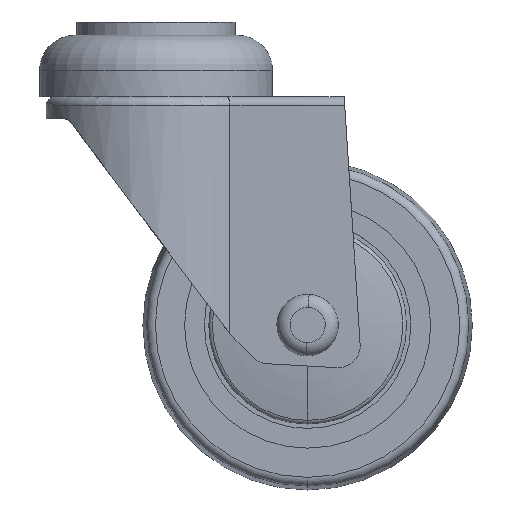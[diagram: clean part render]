
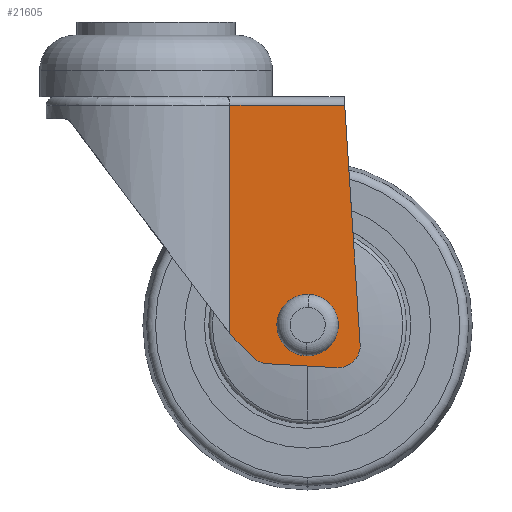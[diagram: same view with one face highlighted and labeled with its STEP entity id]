
A CAD part, top view. The second image highlights one B-rep face of the part: STEP entity #21605.
In plain terms, the highlighted planar face has unit normal (0, 0, 1) as drawn and (1, 0, 0) by its records, which use the part's own axes.
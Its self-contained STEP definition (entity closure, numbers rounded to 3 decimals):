
#265 = AXIS2_PLACEMENT_3D ( 'NONE', #2401, #10568, #662 ) ;
#558 = CARTESIAN_POINT ( 'NONE',  ( 18.5, 52., 34.5 ) ) ;
#590 = ORIENTED_EDGE ( 'NONE', *, *, #13524, .T. ) ;
#627 = CARTESIAN_POINT ( 'NONE',  ( 18.5, 61.682, 41.181 ) ) ;
#662 = DIRECTION ( 'NONE',  ( 0., -1., 0. ) ) ;
#1679 = DIRECTION ( 'NONE',  ( 1., 0., 0. ) ) ;
#2401 = CARTESIAN_POINT ( 'NONE',  ( 18.5, 62., 55. ) ) ;
#2761 = CARTESIAN_POINT ( 'NONE',  ( 18.5, 62.526, 46.849 ) ) ;
#2953 = ORIENTED_EDGE ( 'NONE', *, *, #4776, .F. ) ;
#2958 = DIRECTION ( 'NONE',  ( 0., -1., 0. ) ) ;
#3427 = DIRECTION ( 'NONE',  ( 1., 0., 0. ) ) ;
#3469 = ORIENTED_EDGE ( 'NONE', *, *, #3522, .F. ) ;
#3522 = EDGE_CURVE ( 'NONE', #10775, #12220, #23093, .T. ) ;
#3701 = VECTOR ( 'NONE', #13432, 1000. ) ;
#4061 = DIRECTION ( 'NONE',  ( 0., -1., 0. ) ) ;
#4776 = EDGE_CURVE ( 'NONE', #6894, #10775, #15579, .T. ) ;
#5156 = AXIS2_PLACEMENT_3D ( 'NONE', #558, #25373, #2958 ) ;
#5278 = CARTESIAN_POINT ( 'NONE',  ( 18.5, 77.119, 39.777 ) ) ;
#6149 = AXIS2_PLACEMENT_3D ( 'NONE', #17456, #3427, #11199 ) ;
#6412 = FACE_BOUND ( 'NONE', #19048, .T. ) ;
#6519 = DIRECTION ( 'NONE',  ( 0., 0., -1. ) ) ;
#6676 = PLANE ( 'NONE',  #265 ) ;
#6894 = VERTEX_POINT ( 'NONE', #9326 ) ;
#7081 = CARTESIAN_POINT ( 'NONE',  ( 18.5, 56.368, 46.452 ) ) ;
#7161 = LINE ( 'NONE', #5278, #3701 ) ;
#7362 = DIRECTION ( 'NONE',  ( 0., -1., 0. ) ) ;
#9256 = CIRCLE ( 'NONE', #17773, 4. ) ;
#9326 = CARTESIAN_POINT ( 'NONE',  ( 18.5, 2., 42.944 ) ) ;
#9758 = EDGE_CURVE ( 'NONE', #15381, #18856, #17467, .T. ) ;
#10140 = EDGE_CURVE ( 'NONE', #15708, #18856, #7161, .T. ) ;
#10202 = EDGE_CURVE ( 'NONE', #19971, #24750, #9256, .T. ) ;
#10568 = DIRECTION ( 'NONE',  ( -1., 0., 0. ) ) ;
#10775 = VERTEX_POINT ( 'NONE', #7081 ) ;
#10918 = DIRECTION ( 'NONE',  ( 0., 0.998, 0.064 ) ) ;
#10994 = CARTESIAN_POINT ( 'NONE',  ( 18.5, 62.46, 54.974 ) ) ;
#11199 = DIRECTION ( 'NONE',  ( 0., -1., 0. ) ) ;
#12086 = CARTESIAN_POINT ( 'NONE',  ( 18.5, 59.322, 22.1 ) ) ;
#12220 = VERTEX_POINT ( 'NONE', #627 ) ;
#12227 = LINE ( 'NONE', #10994, #18965 ) ;
#13122 = EDGE_CURVE ( 'NONE', #24750, #19971, #17101, .T. ) ;
#13432 = DIRECTION ( 'NONE',  ( 0., -0.71, -0.705 ) ) ;
#13435 = ORIENTED_EDGE ( 'NONE', *, *, #10140, .F. ) ;
#13524 = EDGE_CURVE ( 'NONE', #15708, #19818, #15951, .T. ) ;
#13896 = ORIENTED_EDGE ( 'NONE', *, *, #19202, .F. ) ;
#14469 = DIRECTION ( 'NONE',  ( 0., -0.056, -0.998 ) ) ;
#15240 = DIRECTION ( 'NONE',  ( -1., 0., 0. ) ) ;
#15381 = VERTEX_POINT ( 'NONE', #19290 ) ;
#15579 = LINE ( 'NONE', #2761, #22987 ) ;
#15598 = CARTESIAN_POINT ( 'NONE',  ( 18.5, 62., 16.815 ) ) ;
#15708 = VERTEX_POINT ( 'NONE', #12086 ) ;
#15863 = DIRECTION ( 'NONE',  ( 0., 1., 0. ) ) ;
#15951 = CIRCLE ( 'NONE', #6149, 5. ) ;
#15986 = CARTESIAN_POINT ( 'NONE',  ( 18.5, 52., 30.5 ) ) ;
#16446 = CARTESIAN_POINT ( 'NONE',  ( 18.5, 60.79, 25.366 ) ) ;
#16676 = LINE ( 'NONE', #24800, #21016 ) ;
#17101 = CIRCLE ( 'NONE', #5156, 4. ) ;
#17456 = CARTESIAN_POINT ( 'NONE',  ( 18.5, 55.798, 25.648 ) ) ;
#17467 = LINE ( 'NONE', #15598, #18239 ) ;
#17773 = AXIS2_PLACEMENT_3D ( 'NONE', #18237, #1679, #4061 ) ;
#18237 = CARTESIAN_POINT ( 'NONE',  ( 18.5, 52., 34.5 ) ) ;
#18239 = VECTOR ( 'NONE', #15863, 1000. ) ;
#18856 = VERTEX_POINT ( 'NONE', #19158 ) ;
#18965 = VECTOR ( 'NONE', #14469, 1000. ) ;
#19048 = EDGE_LOOP ( 'NONE', ( #24072, #23975 ) ) ;
#19092 = FACE_OUTER_BOUND ( 'NONE', #19957, .T. ) ;
#19158 = CARTESIAN_POINT ( 'NONE',  ( 18.5, 54., 16.815 ) ) ;
#19202 = EDGE_CURVE ( 'NONE', #12220, #19818, #12227, .T. ) ;
#19290 = CARTESIAN_POINT ( 'NONE',  ( 18.5, 2., 16.815 ) ) ;
#19818 = VERTEX_POINT ( 'NONE', #16446 ) ;
#19957 = EDGE_LOOP ( 'NONE', ( #2953, #21109, #20683, #13435, #590, #13896, #3469 ) ) ;
#19971 = VERTEX_POINT ( 'NONE', #15986 ) ;
#20683 = ORIENTED_EDGE ( 'NONE', *, *, #9758, .T. ) ;
#21016 = VECTOR ( 'NONE', #6519, 1000. ) ;
#21109 = ORIENTED_EDGE ( 'NONE', *, *, #22828, .T. ) ;
#21605 = ADVANCED_FACE ( 'NONE', ( #6412, #19092 ), #6676, .F. ) ;
#21652 = CARTESIAN_POINT ( 'NONE',  ( 18.5, 56.69, 41.462 ) ) ;
#21857 = CARTESIAN_POINT ( 'NONE',  ( 18.5, 52., 38.5 ) ) ;
#22665 = AXIS2_PLACEMENT_3D ( 'NONE', #21652, #15240, #7362 ) ;
#22828 = EDGE_CURVE ( 'NONE', #6894, #15381, #16676, .T. ) ;
#22987 = VECTOR ( 'NONE', #10918, 1000. ) ;
#23093 = CIRCLE ( 'NONE', #22665, 5. ) ;
#23975 = ORIENTED_EDGE ( 'NONE', *, *, #10202, .F. ) ;
#24072 = ORIENTED_EDGE ( 'NONE', *, *, #13122, .F. ) ;
#24750 = VERTEX_POINT ( 'NONE', #21857 ) ;
#24800 = CARTESIAN_POINT ( 'NONE',  ( 18.5, 2., 55. ) ) ;
#25373 = DIRECTION ( 'NONE',  ( 1., 0., 0. ) ) ;
